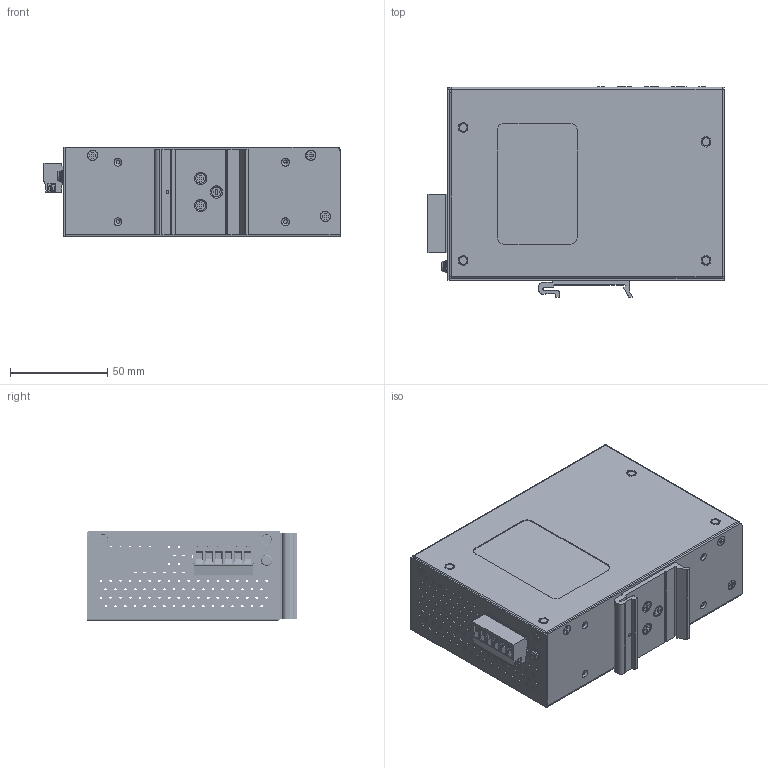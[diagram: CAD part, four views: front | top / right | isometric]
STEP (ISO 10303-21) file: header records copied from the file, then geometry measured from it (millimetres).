
FILE_DESCRIPTION( ( '' ), ' ' );
FILE_NAME( '/vol/tmp/translate-1279258368231554563/5e7aa7cd1f7457109b53869e.step', '2020-03-25T00:37:34', ( '' ), ( '' ), ' ', ' ', ' ' );
FILE_SCHEMA( ( 'AUTOMOTIVE_DESIGN { 1 0 10303 214 1 1 1 1 }' ) );
Length unit declared in the file: metre
Products named in the file (217): Header <1>; PRT0006; Header Assy <1>; PCB Components <1>; PRT0007; PRT0008; PRT0004; PRT0005; Front Housing <1>; PRT0002; PRT0003; PRT0001; Housing Assy <1>; PRT0013; PRT0010; PRT0011; PRT0012; PRT0014; PRT0009; Assem1
Assembly tree (232 placements, depth 6):
  Assem1
    Housing Assy <1>
      PRT0013
      PRT0010  x10
      PRT0011
      PRT0012
      PRT0012
      PRT0012
      PRT0012
      PRT0012
      PRT0012
      PRT0012
      PRT0012
      PRT0012
      PRT0012
      PRT0012
      PRT0012
      PRT0012
      PRT0014
      PRT0009
      PRT0009
      PRT0009
      PRT0009
      PRT0009
      PRT0009
      PRT0009
      PRT0009
      PRT0009
      PRT0009
      PRT0009
      PRT0009
      PRT0009
      PRT0009
      PRT0009
      PRT0009
      PRT0009
      PRT0009
      PRT0009
      PRT0009
      PCB Components <1>
        PRT0007  x5
        PRT0008
        PRT0004
        PRT0005
        Header Assy <1>
          Header <1>
            PRT0006
      Front Housing <1>
        PRT0002  x4
        PRT0003
        PRT0001
        PRT0001
        PRT0001
        PRT0001
        PRT0001
        PRT0001
        PRT0001
        PRT0001
        PRT0001
        PRT0001
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Bounding box: 151.96 x 108.16 x 46 mm (x, y, z)
Volume: 31693.6 mm3; surface area: 138757.3 mm2
Topology: 27 solids, 843 shells, 2103 faces, 7526 edges, 6025 vertices
Faces by surface type: plane 1184, cylinder 756, torus 77, cone 51, sphere 33, bspline 2
Full cylindrical faces by diameter (mm): 0.609 x1, 1.3 x11, 1.4 x6, 1.5 x1, 1.9 x245, 2 x25, 2.3 x3, 2.449 x4, 2.459 x4, 2.5 x1, 2.8 x10, 2.9 x8, 3 x13, 3.2 x5, 3.5 x7, 3.78 x4, 3.783 x6, 3.99 x8, 4 x28, 4.2 x13, 4.8 x2, 5 x10, 5.5 x1
Entity records: 81924 total; most frequent: CARTESIAN_POINT 16709, DIRECTION 12102, ORIENTED_EDGE 8176, EDGE_CURVE 5911, VERTEX_POINT 5145, AXIS2_PLACEMENT_3D 4332, LINE 3438, VECTOR 3438
